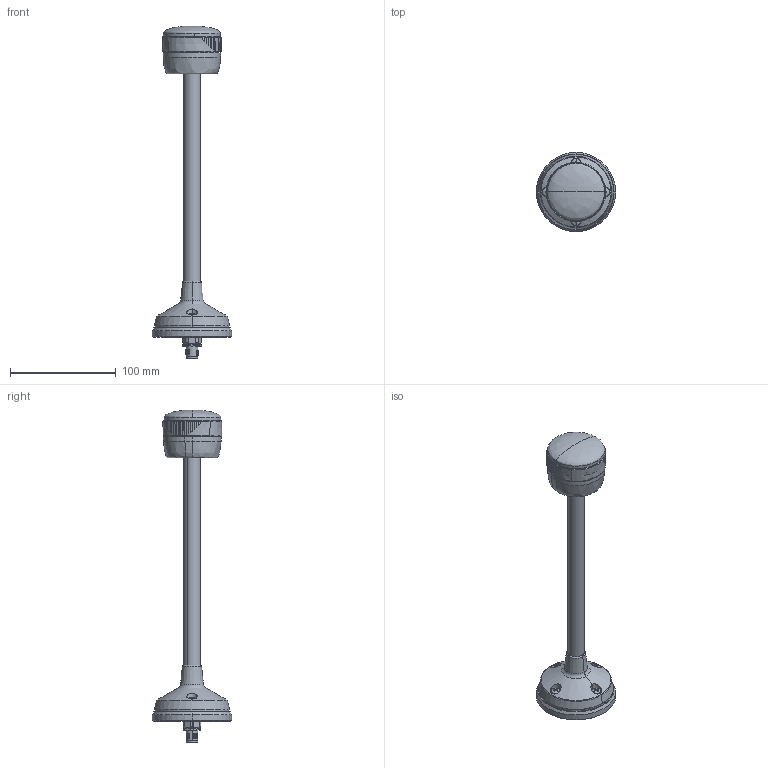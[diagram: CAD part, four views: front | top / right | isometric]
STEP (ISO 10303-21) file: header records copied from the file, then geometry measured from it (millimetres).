
FILE_DESCRIPTION (( 'STEP AP214' ), '1' );
FILE_NAME ('20230214_28250126020.STEP', '2023-02-14T09:00:24', ( '' ), ( '' ), 'SwSTEP 2.0', 'SolidWorks 2021', '' );
FILE_SCHEMA (( 'AUTOMOTIVE_DESIGN' ));
Length unit declared in the file: millimetre
Products named in the file (1): 20230214_28250126020
Bounding box: 75 x 75 x 314.11 mm (x, y, z)
Surface area: 103607.4 mm2 (no closed solid volume)
Topology: 0 solids, 28 shells, 1466 faces, 3885 edges, 2483 vertices
Faces by surface type: plane 745, bspline 251, cylinder 235, cone 179, torus 44, sphere 12
Entity records: 75268 total; most frequent: CARTESIAN_POINT 24348, ORIENTED_EDGE 7656, DIRECTION 6500, EDGE_CURVE 3837, VERTEX_POINT 2483, AXIS2_PLACEMENT_3D 2229, LINE 2042, VECTOR 2042
